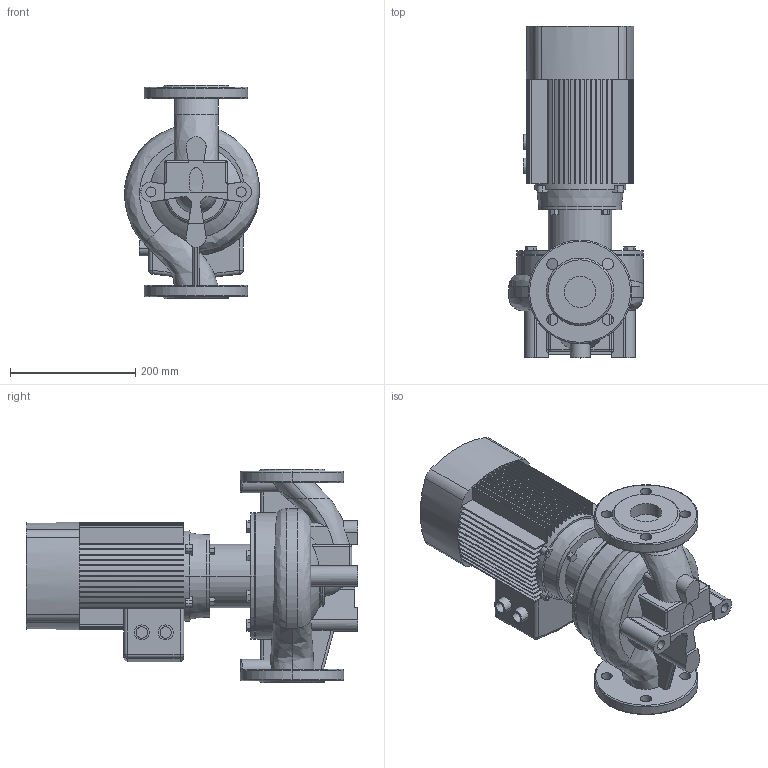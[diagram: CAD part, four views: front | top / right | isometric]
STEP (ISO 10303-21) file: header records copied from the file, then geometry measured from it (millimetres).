
FILE_DESCRIPTION (( 'STEP AP203' ), '1' );
FILE_NAME ('TD50-15G_2.STEP', '2022-05-02T14:54:59', ( '' ), ( '' ), 'SwSTEP 2.0', 'SolidWorks 2019', '' );
FILE_SCHEMA (( 'CONFIG_CONTROL_DESIGN' ));
Length unit declared in the file: millimetre
Products named in the file (4): Fon_50_TD50-15G_2; ED_B14_YE2-90S-2 (1.5); Pr_ch 50_TD50-15G_2; TD50-15G_2
Assembly tree (3 placements, depth 2):
  TD50-15G_2
    Pr_ch 50_TD50-15G_2
    Fon_50_TD50-15G_2
    ED_B14_YE2-90S-2 (1.5)
Bounding box: 215.08 x 529 x 340 mm (x, y, z)
Volume: 12151876.6 mm3; surface area: 923225.1 mm2
Topology: 3 solids, 3 shells, 643 faces, 1750 edges, 1148 vertices
Faces by surface type: plane 423, cylinder 155, bspline 25, torus 23, cone 11, sphere 6
Entity records: 26018 total; most frequent: CARTESIAN_POINT 9193, ORIENTED_EDGE 3496, DIRECTION 3402, EDGE_CURVE 1748, AXIS2_PLACEMENT_3D 1194, VERTEX_POINT 1148, VECTOR 1014, LINE 1014
